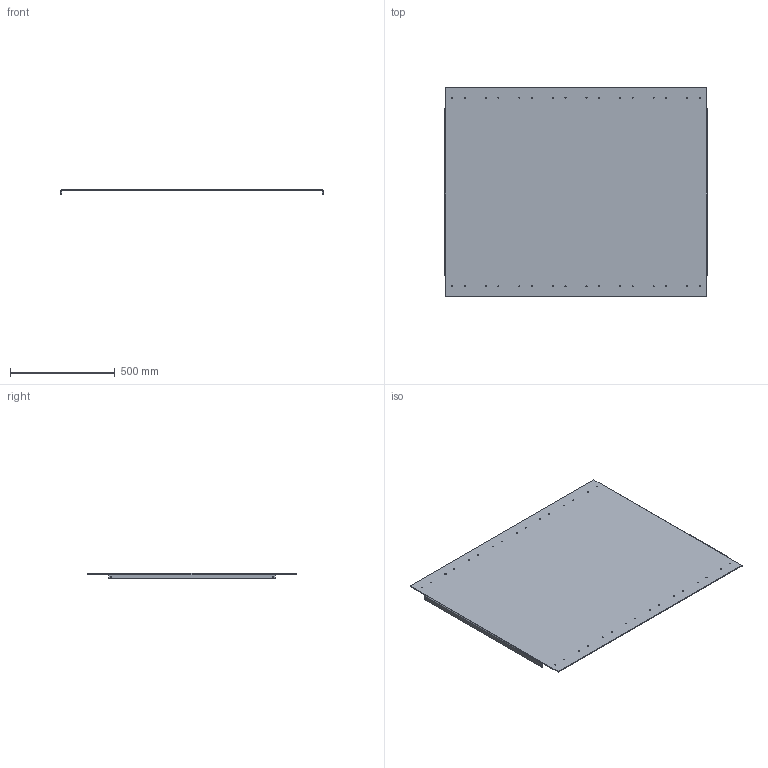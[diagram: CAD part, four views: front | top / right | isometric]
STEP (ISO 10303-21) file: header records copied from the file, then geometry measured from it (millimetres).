
FILE_DESCRIPTION(('HOOPS Exchange Step'),'2;1');
FILE_NAME('/private/var/mobile/Containers/Data/Application/E4481369-A8C6-45C6-A958-B1853E49479D/tmp/export/temp_export','2021-04-12T21:08:28+00:00',('mobile'),('Shapr3D Limited'),'HOOPS Exchange 2020.2','Shapr3D','Authorized');
FILE_SCHEMA( ('AP203_CONFIGURATION_CONTROLLED_3D_DESIGN_OF_MECHANICAL_PARTS_AND_ASSEMBLIES_MIM_LF') );
Length unit declared in the file: millimetre
Products named in the file (2): 0; /private/var/mobile/Containers/Data/Application/E4481369-A8C6-45C6-A958-B1853E49479D/tmp/A8E4E5D8-F9FA-40A0-98E1-262BA597B351.tmp
Assembly tree (1 placements, depth 2):
  /private/var/mobile/Containers/Data/Application/E4481369-A8C6-45C6-A958-B1853E49479D/tmp/A8E4E5D8-F9FA-40A0-98E1-262BA597B351.tmp
    0
Bounding box: 1250 x 1000 x 24 mm (x, y, z)
Volume: 5107176.7 mm3; surface area: 2574226.4 mm2
Topology: 1 solids, 1 shells, 66 faces, 224 edges, 160 vertices
Faces by surface type: cylinder 48, plane 18
Full cylindrical faces by diameter (mm): 5.2 x36
Entity records: 2751 total; most frequent: DIRECTION 498, CARTESIAN_POINT 453, ORIENTED_EDGE 448, EDGE_CURVE 224, AXIS2_PLACEMENT_3D 205, VERTEX_POINT 160, EDGE_LOOP 138, FACE_BOUND 138
